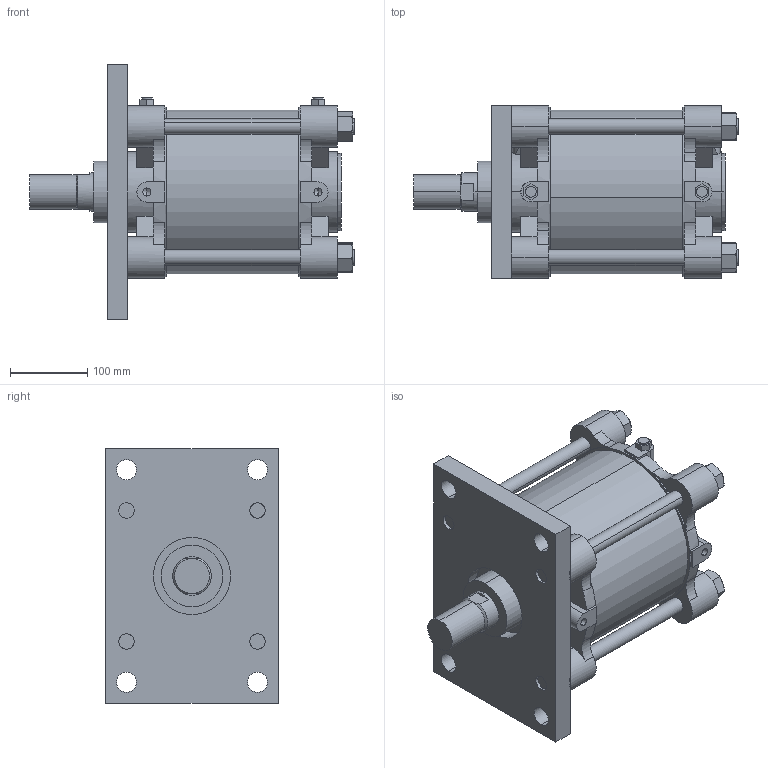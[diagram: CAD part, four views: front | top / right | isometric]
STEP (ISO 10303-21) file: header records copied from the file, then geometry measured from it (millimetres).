
FILE_DESCRIPTION (( 'STEP AP203' ), '1' );
FILE_NAME ('A##2-200#-100-A.STEP', '2016-03-31T06:59:58', ( '' ), ( '' ), 'SwSTEP 2.0', 'SolidWorks 2014', '' );
FILE_SCHEMA (( 'CONFIG_CONTROL_DESIGN' ));
Length unit declared in the file: millimetre
Products named in the file (7): A200-AB; A200-A; A200-B; A200-100; A##2-200#-100-A
Assembly tree (12 placements, depth 2):
  A##2-200#-100-A
    A200-B
    A200-100
    A200-A
    (unnamed)  x4
    (unnamed)  x4
    A200-AB
Bounding box: 421 x 224 x 330 mm (x, y, z)
Volume: 11554553.3 mm3; surface area: 837769.2 mm2
Topology: 12 solids, 14 shells, 344 faces, 888 edges, 572 vertices
Faces by surface type: plane 172, cylinder 134, torus 24, cone 14
Entity records: 10377 total; most frequent: CARTESIAN_POINT 2093, DIRECTION 1642, ORIENTED_EDGE 1500, EDGE_CURVE 750, AXIS2_PLACEMENT_3D 627, VERTEX_POINT 494, VECTOR 388, LINE 388
